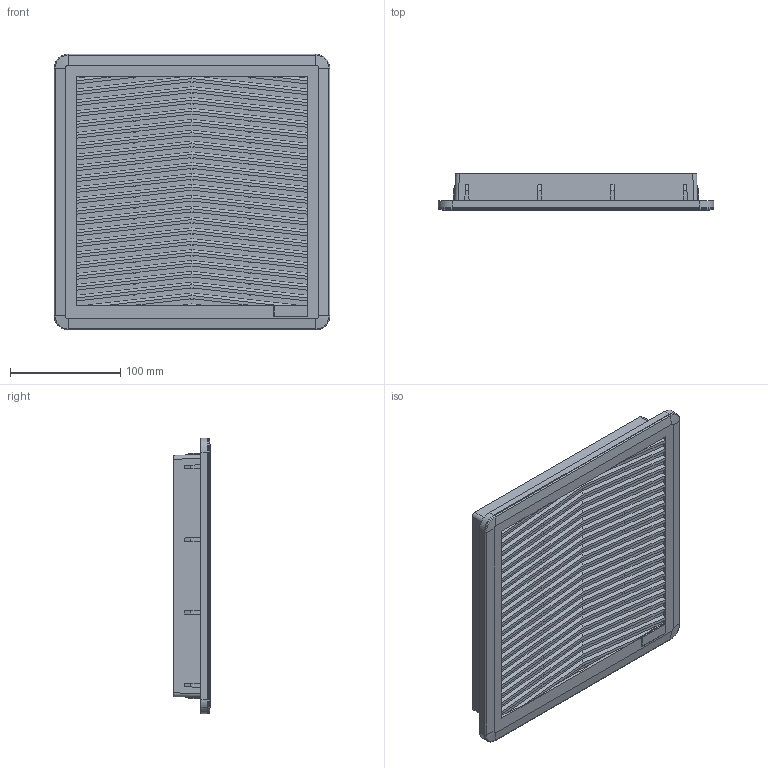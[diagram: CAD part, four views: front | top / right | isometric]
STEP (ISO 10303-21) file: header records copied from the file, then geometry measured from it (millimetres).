
FILE_DESCRIPTION (( 'STEP AP214' ), '1' );
FILE_NAME ('FF15y.STEP', '2023-09-29T11:39:13', ( '' ), ( '' ), 'SwSTEP 2.0', 'SolidWorks 2022', '' );
FILE_SCHEMA (( 'AUTOMOTIVE_DESIGN' ));
Length unit declared in the file: millimetre
Products named in the file (4): DT-00158DSI_Sede etichetta semplificato; DT-00159DSI_Base semplificata; FF15y; DT-04082DSI_mostrina semplificata
Assembly tree (3 placements, depth 2):
  FF15y
    DT-00158DSI_Sede etichetta semplificato
    DT-04082DSI_mostrina semplificata
    DT-00159DSI_Base semplificata
Bounding box: 250.12 x 33.9 x 250.08 mm (x, y, z)
Volume: 1571469.2 mm3; surface area: 312036.1 mm2
Topology: 2 solids, 3 shells, 628 faces, 1802 edges, 1182 vertices
Faces by surface type: plane 598, cylinder 18, cone 8, torus 4
Entity records: 21467 total; most frequent: CARTESIAN_POINT 5998, ORIENTED_EDGE 3604, DIRECTION 2339, EDGE_CURVE 1802, VERTEX_POINT 1182, VECTOR 997, LINE 997, B_SPLINE_CURVE_WITH_KNOTS 761
